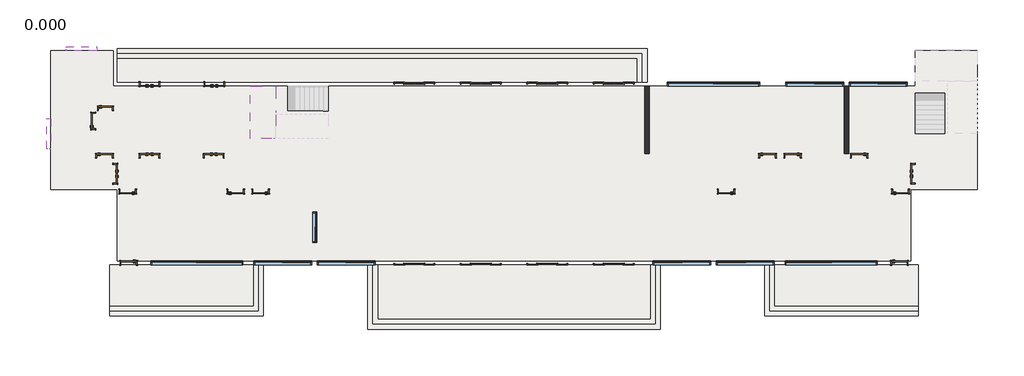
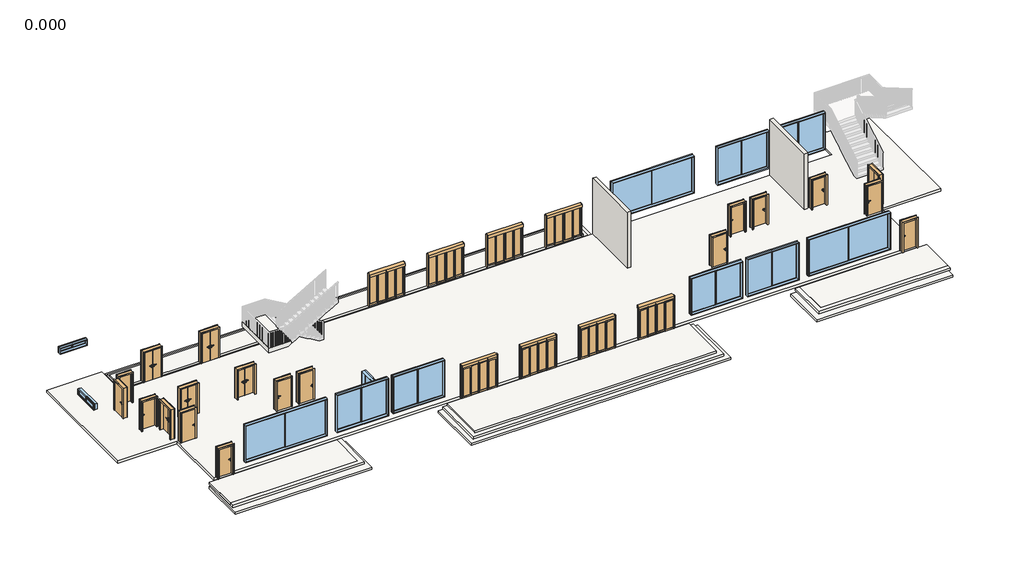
# One storey, part 1 of 4: 27 doors, 14 slabs, 12 windows, 2 walls.
"""IFC4 building model written with IfcOpenShell, lengths in millimetres."""

from ifc_helpers import new_model, si_unit, frame, origin, origin_with_axes, place, context, project, spatial, polyline, outline, extrude, faceted_brep, transform, mapped, element, save
from components import m0921_2716a3da, m1021_ed8d65da, m1021_7d4f1ed1, m1221_25037a99, m2421_7f85be3f, c1804_f212372e, c1812_6df05ca2, c3426_0dbdd1a9, c3426_fe1ed481, c5426_8dc2f223, c5426_d54fb578

model = new_model("IFC4")

# Units and contexts
model_context = context("Model", 3, world=origin())
ifc_project = project(units=[si_unit("LENGTHUNIT", "METRE", prefix="MILLI")], contexts=[model_context])

# Site, building, storey
site = spatial("IfcSite", under=ifc_project)
building = spatial("IfcBuilding", under=site)
storey = spatial("IfcBuildingStorey", under=building, Name="0.000", Elevation=0.0)

# Doors
placement = place(None, origin())
m0921_shape = m0921_2716a3da(model_context)
element("IfcDoor", 1, ObjectType="单嵌板木门 1 : M0921", at=placement, inside=storey, context=model_context, shape_type="MappedRepresentation", body=[
    mapped(m0921_shape, transform((-4237.0109656, 4101.6095817, 0.0), x_axis=(1.0, 0.0, 0.0), y_axis=(0.0, 1.0, 0.0), z_axis=(0.0, 0.0, 1.0))),
])
m1021_shape = m1021_ed8d65da(model_context)
element("IfcDoor", 2, ObjectType="单嵌板木门 1 : M1021", at=placement, inside=storey, context=model_context, shape_type="MappedRepresentation", body=[
    mapped(m1021_shape, transform((42332.9890344, -4983.3904183, 0.0), x_axis=(1.0, 0.0, 0.0), y_axis=(0.0, 1.0, 0.0), z_axis=(0.0, 0.0, 1.0))),
])
element("IfcDoor", 3, ObjectType="单嵌板木门 1 : M1021", at=placement, inside=storey, context=model_context, shape_type="MappedRepresentation", body=[
    mapped(m1021_shape, transform((-4937.0109656, 3366.6095817, 0.0), x_axis=(0.0, 1.0, 0.0), y_axis=(-1.0, 0.0, 0.0), z_axis=(0.0, 0.0, 1.0))),
])
element("IfcDoor", 4, ObjectType="单嵌板木门 1 : M1021", at=placement, inside=storey, context=model_context, shape_type="MappedRepresentation", body=[
    mapped(m1021_shape, transform((-4287.0109656, 1316.6095817, 0.0), x_axis=(1.0, 0.0, 0.0), y_axis=(0.0, 1.0, 0.0), z_axis=(0.0, 0.0, 1.0))),
])
element("IfcDoor", 5, ObjectType="单嵌板木门 1 : M1021", at=placement, inside=storey, context=model_context, shape_type="MappedRepresentation", body=[
    mapped(m1021_shape, transform((-2927.0109656, -783.3904183, 0.0), x_axis=(-1.0, 0.0, 0.0), y_axis=(0.0, -1.0, 0.0), z_axis=(0.0, 0.0, 1.0))),
])
element("IfcDoor", 6, ObjectType="单嵌板木门 1 : M1021", at=placement, inside=storey, context=model_context, shape_type="MappedRepresentation", body=[
    mapped(m1021_shape, transform((4867.9890344, -783.3904183, 0.0), x_axis=(-1.0, 0.0, 0.0), y_axis=(0.0, -1.0, 0.0), z_axis=(0.0, 0.0, 1.0))),
])
element("IfcDoor", 7, ObjectType="单嵌板木门 1 : M1021", at=placement, inside=storey, context=model_context, shape_type="MappedRepresentation", body=[
    mapped(m1021_shape, transform((32167.9890344, -783.3904183, 0.0), x_axis=(-1.0, 0.0, 0.0), y_axis=(0.0, -1.0, 0.0), z_axis=(0.0, 0.0, 1.0))),
])
element("IfcDoor", 8, ObjectType="单嵌板木门 1 : M1021", at=placement, inside=storey, context=model_context, shape_type="MappedRepresentation", body=[
    mapped(m1021_shape, transform((34597.9890344, 1316.6095817, 0.0), x_axis=(1.0, 0.0, 0.0), y_axis=(0.0, 1.0, 0.0), z_axis=(0.0, 0.0, 1.0))),
])
m1021_2_shape = m1021_7d4f1ed1(model_context)
element("IfcDoor", 9, ObjectType="单嵌板木门 1 : M1021", at=placement, inside=storey, context=model_context, shape_type="MappedRepresentation", body=[
    mapped(m1021_2_shape, transform((-2867.0109656, -4983.3904183, 0.0), x_axis=(-1.0, 0.0, 0.0), y_axis=(0.0, -1.0, 0.0), z_axis=(0.0, 0.0, 1.0))),
])
element("IfcDoor", 10, ObjectType="单嵌板木门 1 : M1021", at=placement, inside=storey, context=model_context, shape_type="MappedRepresentation", body=[
    mapped(m1021_2_shape, transform((3397.9890344, -783.3904183, 0.0), x_axis=(1.0, 0.0, 0.0), y_axis=(0.0, 1.0, 0.0), z_axis=(0.0, 0.0, 1.0))),
])
element("IfcDoor", 11, ObjectType="单嵌板木门 1 : M1021", at=placement, inside=storey, context=model_context, shape_type="MappedRepresentation", body=[
    mapped(m1021_2_shape, transform((42397.9890344, -783.3904183, 0.0), x_axis=(1.0, 0.0, 0.0), y_axis=(0.0, 1.0, 0.0), z_axis=(0.0, 0.0, 1.0))),
])
element("IfcDoor", 12, ObjectType="单嵌板木门 1 : M1021", at=placement, inside=storey, context=model_context, shape_type="MappedRepresentation", body=[
    mapped(m1021_2_shape, transform((36067.9890344, 1316.6095817, 0.0), x_axis=(-1.0, 0.0, 0.0), y_axis=(0.0, -1.0, 0.0), z_axis=(0.0, 0.0, 1.0))),
])
element("IfcDoor", 13, ObjectType="单嵌板木门 1 : M1021", at=placement, inside=storey, context=model_context, shape_type="MappedRepresentation", body=[
    mapped(m1021_2_shape, transform((39967.9890344, 1316.6095817, 0.0), x_axis=(-1.0, 0.0, 0.0), y_axis=(0.0, -1.0, 0.0), z_axis=(0.0, 0.0, 1.0))),
])
m1221_shape = m1221_25037a99(model_context)
element("IfcDoor", 14, ObjectType="双面嵌板木门 1 : M1221", at=placement, inside=storey, context=model_context, shape_type="MappedRepresentation", body=[
    mapped(m1221_shape, transform((-1647.0109656, 5516.6095817, 0.0), x_axis=(-1.0, 0.0, 0.0), y_axis=(0.0, -1.0, 0.0), z_axis=(0.0, 0.0, 1.0))),
])
element("IfcDoor", 15, ObjectType="双面嵌板木门 1 : M1221", at=placement, inside=storey, context=model_context, shape_type="MappedRepresentation", body=[
    mapped(m1221_shape, transform((2152.9890344, 5516.6095817, 0.0), x_axis=(-1.0, 0.0, 0.0), y_axis=(0.0, -1.0, 0.0), z_axis=(0.0, 0.0, 1.0))),
])
element("IfcDoor", 16, ObjectType="双面嵌板木门 1 : M1221", at=placement, inside=storey, context=model_context, shape_type="MappedRepresentation", body=[
    mapped(m1221_shape, transform((-3667.0109656, 264.1095817, 0.0), x_axis=(0.0, -1.0, 0.0), y_axis=(1.0, 0.0, 0.0), z_axis=(0.0, 0.0, 1.0))),
])
element("IfcDoor", 17, ObjectType="双面嵌板木门 1 : M1221", at=placement, inside=storey, context=model_context, shape_type="MappedRepresentation", body=[
    mapped(m1221_shape, transform((-1647.0109656, 1316.6095817, 0.0), x_axis=(1.0, 0.0, 0.0), y_axis=(0.0, 1.0, 0.0), z_axis=(0.0, 0.0, 1.0))),
])
element("IfcDoor", 18, ObjectType="双面嵌板木门 1 : M1221", at=placement, inside=storey, context=model_context, shape_type="MappedRepresentation", body=[
    mapped(m1221_shape, transform((2117.9890344, 1316.6095817, 0.0), x_axis=(1.0, 0.0, 0.0), y_axis=(0.0, 1.0, 0.0), z_axis=(0.0, 0.0, 1.0))),
])
element("IfcDoor", 19, ObjectType="双面嵌板木门 1 : M1221", at=placement, inside=storey, context=model_context, shape_type="MappedRepresentation", body=[
    mapped(m1221_shape, transform((43132.9890344, 266.6095817, 0.0), x_axis=(0.0, 1.0, 0.0), y_axis=(-1.0, 0.0, 0.0), z_axis=(0.0, 0.0, 1.0))),
])
m2421_shape = m2421_7f85be3f(model_context)
element("IfcDoor", 20, ObjectType="四扇推拉门 2 : M2421", at=placement, inside=storey, context=model_context, shape_type="MappedRepresentation", body=[
    mapped(m2421_shape, transform((13882.9890344, 5516.6095817, 0.0), x_axis=(1.0, 0.0, 0.0), y_axis=(0.0, 1.0, 0.0), z_axis=(0.0, 0.0, 1.0))),
])
element("IfcDoor", 21, ObjectType="四扇推拉门 2 : M2421", at=placement, inside=storey, context=model_context, shape_type="MappedRepresentation", body=[
    mapped(m2421_shape, transform((17782.9890344, 5516.6095817, 0.0), x_axis=(1.0, 0.0, 0.0), y_axis=(0.0, 1.0, 0.0), z_axis=(0.0, 0.0, 1.0))),
])
element("IfcDoor", 22, ObjectType="四扇推拉门 2 : M2421", at=placement, inside=storey, context=model_context, shape_type="MappedRepresentation", body=[
    mapped(m2421_shape, transform((21682.9890344, 5516.6095817, 0.0), x_axis=(1.0, 0.0, 0.0), y_axis=(0.0, 1.0, 0.0), z_axis=(0.0, 0.0, 1.0))),
])
element("IfcDoor", 23, ObjectType="四扇推拉门 2 : M2421", at=placement, inside=storey, context=model_context, shape_type="MappedRepresentation", body=[
    mapped(m2421_shape, transform((25582.9890344, 5516.6095817, 0.0), x_axis=(1.0, 0.0, 0.0), y_axis=(0.0, 1.0, 0.0), z_axis=(0.0, 0.0, 1.0))),
])
element("IfcDoor", 24, ObjectType="四扇推拉门 2 : M2421", at=placement, inside=storey, context=model_context, shape_type="MappedRepresentation", body=[
    mapped(m2421_shape, transform((25582.9890344, -4983.3904183, 0.0), x_axis=(-1.0, 0.0, 0.0), y_axis=(0.0, -1.0, 0.0), z_axis=(0.0, 0.0, 1.0))),
])
element("IfcDoor", 25, ObjectType="四扇推拉门 2 : M2421", at=placement, inside=storey, context=model_context, shape_type="MappedRepresentation", body=[
    mapped(m2421_shape, transform((21682.9890344, -4983.3904183, 0.0), x_axis=(-1.0, 0.0, 0.0), y_axis=(0.0, -1.0, 0.0), z_axis=(0.0, 0.0, 1.0))),
])
element("IfcDoor", 26, ObjectType="四扇推拉门 2 : M2421", at=placement, inside=storey, context=model_context, shape_type="MappedRepresentation", body=[
    mapped(m2421_shape, transform((17782.9890344, -4983.3904183, 0.0), x_axis=(-1.0, 0.0, 0.0), y_axis=(0.0, -1.0, 0.0), z_axis=(0.0, 0.0, 1.0))),
])
element("IfcDoor", 27, ObjectType="四扇推拉门 2 : M2421", at=placement, inside=storey, context=model_context, shape_type="MappedRepresentation", body=[
    mapped(m2421_shape, transform((13882.9890344, -4983.3904183, 0.0), x_axis=(-1.0, 0.0, 0.0), y_axis=(0.0, -1.0, 0.0), z_axis=(0.0, 0.0, 1.0))),
])

# Slabs
element("IfcSlab", 28, ObjectType="150mm厚钢筋混凝土", at=placement, inside=storey, context=model_context, shape_type="SweptSolid", body=[
    extrude(outline(polyline([(-3787.0109656, 7496.6095817), (-3787.0109656, 5396.6095817), (43252.9890344, 5396.6095817), (43252.9890344, 7496.6095817), (46912.9890344, 7496.6095817), (46912.9890344, -663.3904183), (43012.9890344, -663.3904183), (43012.9890344, -4863.3904183), (-3547.0109656, -4863.3904183), (-3547.0109656, -663.3904183), (-7447.0109656, -663.3904183), (-7447.0109656, 7496.6095817), (-3787.0109656, 7496.6095817)])), frame((0.0, 0.0, -150.0), z_axis=(0.0, 0.0, 1.0), x_axis=(1.0, 0.0, 0.0)), (0.0, 0.0, 1.0), 150.0),
])
element("IfcSlab", 29, ObjectType="150mm厚钢筋混凝土", at=placement, inside=storey, context=model_context, shape_type="SweptSolid", body=[
    extrude(outline(polyline([(-3547.0109656, 7616.6095817), (27532.9890344, 7616.6095817), (27532.9890344, 5636.6095817), (-3547.0109656, 5636.6095817), (-3547.0109656, 7616.6095817)])), frame((0.0, 0.0, -450.0), z_axis=(0.0, 0.0, 1.0), x_axis=(1.0, 0.0, 0.0)), (0.0, 0.0, 1.0), 150.0),
])
element("IfcSlab", 30, ObjectType="150mm厚钢筋混凝土", at=placement, inside=storey, context=model_context, shape_type="SweptSolid", body=[
    extrude(outline(polyline([(-3547.0109656, 7316.6095817), (27232.9890344, 7316.6095817), (27232.9890344, 5636.6095817), (-3547.0109656, 5636.6095817), (-3547.0109656, 7316.6095817)])), frame((0.0, 0.0, -300.0), z_axis=(0.0, 0.0, 1.0), x_axis=(1.0, 0.0, 0.0)), (0.0, 0.0, 1.0), 150.0),
])
element("IfcSlab", 31, ObjectType="150mm厚钢筋混凝土", at=placement, inside=storey, context=model_context, shape_type="SweptSolid", body=[
    extrude(outline(polyline([(26932.9890344, 7016.6095817), (26932.9890344, 5636.6095817), (-3547.0109656, 5636.6095817), (-3547.0109656, 7016.6095817), (26932.9890344, 7016.6095817)])), frame((0.0, 0.0, -150.0), z_axis=(0.0, 0.0, 1.0), x_axis=(1.0, 0.0, 0.0)), (0.0, 0.0, 1.0), 150.0),
])
element("IfcSlab", 32, ObjectType="150mm厚钢筋混凝土", at=placement, inside=storey, context=model_context, shape_type="SweptSolid", body=[
    extrude(outline(polyline([(-3967.0109656, -7483.3904183), (-3967.0109656, -5103.3904183), (4432.9890344, -5103.3904183), (4432.9890344, -7483.3904183), (-3967.0109656, -7483.3904183)])), frame((0.0, 0.0, -150.0), z_axis=(0.0, 0.0, 1.0), x_axis=(1.0, 0.0, 0.0)), (0.0, 0.0, 1.0), 150.0),
])
element("IfcSlab", 33, ObjectType="150mm厚钢筋混凝土", at=placement, inside=storey, context=model_context, shape_type="SweptSolid", body=[
    extrude(outline(polyline([(-3967.0109656, -7783.3904183), (-3967.0109656, -5103.3904183), (4732.9890344, -5103.3904183), (4732.9890344, -7783.3904183), (-3967.0109656, -7783.3904183)])), frame((0.0, 0.0, -150.0), z_axis=(0.0, 0.0, 1.0), x_axis=(1.0, 0.0, 0.0)), (0.0, 0.0, 1.0), 150.0),
])
element("IfcSlab", 34, ObjectType="150mm厚钢筋混凝土", at=placement, inside=storey, context=model_context, shape_type="SweptSolid", body=[
    extrude(outline(polyline([(5032.9890344, -8083.3904183), (-3967.0109656, -8083.3904183), (-3967.0109656, -5103.3904183), (5032.9890344, -5103.3904183), (5032.9890344, -8083.3904183)])), frame((0.0, 0.0, -450.0), z_axis=(0.0, 0.0, 1.0), x_axis=(1.0, 0.0, 0.0)), (0.0, 0.0, 1.0), 150.0),
])
element("IfcSlab", 35, ObjectType="150mm厚钢筋混凝土", at=placement, inside=storey, context=model_context, shape_type="SweptSolid", body=[
    extrude(outline(polyline([(35032.9890344, -7483.3904183), (35032.9890344, -5103.3904183), (43432.9890344, -5103.3904183), (43432.9890344, -7483.3904183), (35032.9890344, -7483.3904183)])), frame((0.0, 0.0, -150.0), z_axis=(0.0, 0.0, 1.0), x_axis=(1.0, 0.0, 0.0)), (0.0, 0.0, 1.0), 150.0),
])
element("IfcSlab", 36, ObjectType="150mm厚钢筋混凝土", at=placement, inside=storey, context=model_context, shape_type="SweptSolid", body=[
    extrude(outline(polyline([(34732.9890344, -7783.3904183), (34732.9890344, -5103.3904183), (43432.9890344, -5103.3904183), (43432.9890344, -7783.3904183), (34732.9890344, -7783.3904183)])), frame((0.0, 0.0, -150.0), z_axis=(0.0, 0.0, 1.0), x_axis=(1.0, 0.0, 0.0)), (0.0, 0.0, 1.0), 150.0),
])
element("IfcSlab", 37, ObjectType="150mm厚钢筋混凝土", at=placement, inside=storey, context=model_context, shape_type="SweptSolid", body=[
    extrude(outline(polyline([(43432.9890344, -8083.3904183), (34432.9890344, -8083.3904183), (34432.9890344, -5103.3904183), (43432.9890344, -5103.3904183), (43432.9890344, -8083.3904183)])), frame((0.0, 0.0, -450.0), z_axis=(0.0, 0.0, 1.0), x_axis=(1.0, 0.0, 0.0)), (0.0, 0.0, 1.0), 150.0),
])
element("IfcSlab", 38, ObjectType="150mm厚钢筋混凝土", at=placement, inside=storey, context=model_context, shape_type="SweptSolid", body=[
    extrude(outline(polyline([(11757.9890344, -8260.3904183), (11757.9890344, -5103.3904183), (27707.9890344, -5103.3904183), (27707.9890344, -8260.3904183), (11757.9890344, -8260.3904183)])), frame((0.0, 0.0, -150.0), z_axis=(0.0, 0.0, 1.0), x_axis=(1.0, 0.0, 0.0)), (0.0, 0.0, 1.0), 150.0),
])
element("IfcSlab", 39, ObjectType="150mm厚钢筋混凝土", at=placement, inside=storey, context=model_context, shape_type="SweptSolid", body=[
    extrude(outline(polyline([(11457.9890344, -5103.3904183), (28007.9890344, -5103.3904183), (28007.9890344, -8560.3904183), (11457.9890344, -8560.3904183), (11457.9890344, -5103.3904183)])), frame((0.0, 0.0, -300.0), z_axis=(0.0, 0.0, 1.0), x_axis=(1.0, 0.0, 0.0)), (0.0, 0.0, 1.0), 150.0),
])
element("IfcSlab", 40, ObjectType="150mm厚钢筋混凝土", at=placement, inside=storey, context=model_context, shape_type="SweptSolid", body=[
    extrude(outline(polyline([(28307.9890344, -5103.3904183), (28307.9890344, -8860.3904183), (11157.9890344, -8860.3904183), (11157.9890344, -5103.3904183), (28307.9890344, -5103.3904183)])), frame((0.0, 0.0, -450.0), z_axis=(0.0, 0.0, 1.0), x_axis=(1.0, 0.0, 0.0)), (0.0, 0.0, 1.0), 150.0),
])
element("IfcSlab", 41, ObjectType="300mm 厚度", at=placement, inside=storey, context=model_context, shape_type="Brep", body=[
    faceted_brep([(5752.9890344, 3956.6095817, 1950.0), (5752.9890344, 5396.6095817, 1950.0), (5691.0770952, 5396.6095817, 1950.0), (4252.9890344, 5396.6095817, 1950.0), (4252.9890344, 2336.6095817, 1950.0), (5534.9009736, 2336.6095817, 1950.0), (5752.9890344, 2336.6095817, 1950.0), (5752.9890344, 3776.6095817, 1950.0), (5752.9890344, 3956.6095817, 1650.0), (5752.9890344, 3956.6095817, 1614.0689639), (5752.9890344, 5396.6095817, 1614.0689639), (5752.9890344, 5396.6095817, 1787.5), (5691.0770952, 5396.6095817, 1650.0), (4252.9890344, 5396.6095817, 1650.0), (4252.9890344, 2336.6095817, 1650.0), (5534.9009736, 2336.6095817, 1650.0), (5752.9890344, 2336.6095817, 1776.5689639), (5752.9890344, 3776.6095817, 1776.5689639), (5752.9890344, 3776.6095817, 1650.0), (5534.9009736, 3776.6095817, 1650.0), (5691.0770952, 3956.6095817, 1650.0)], [[[0, 1, 2, 3, 4, 5, 6, 7]], [[1, 0, 8, 9, 10, 11]], [[1, 11, 10, 12, 13, 3, 2]], [[4, 3, 13, 14]], [[4, 14, 15, 16, 6, 5]], [[7, 6, 16, 17]], [[0, 7, 17, 18, 8]], [[18, 19, 15, 14, 13, 12, 20, 8]], [[19, 18, 17]], [[20, 12, 10, 9]], [[8, 20, 9]], [[15, 19, 17, 16]]]),
])

# Walls
element("IfcWall", 42, ObjectType="240mm厚墙", at=placement, inside=storey, context=model_context, shape_type="SweptSolid", body=[
    extrude(outline(polyline([(39352.9890344, 5396.6095817), (39352.9890344, 1436.6095817), (39112.9890344, 1436.6095817), (39112.9890344, 5396.6095817), (39352.9890344, 5396.6095817)])), origin_with_axes(), (0.0, 0.0, 1.0), 3900.0),
])
element("IfcWall", 43, ObjectType="240mm厚墙", at=placement, inside=storey, context=model_context, shape_type="SweptSolid", body=[
    extrude(outline(polyline([(27652.9890344, 5396.6095817), (27652.9890344, 1436.6095817), (27412.9890344, 1436.6095817), (27412.9890344, 5396.6095817), (27652.9890344, 5396.6095817)])), origin_with_axes(), (0.0, 0.0, 1.0), 3900.0),
])

# Windows
c1804_shape = c1804_f212372e(model_context)
element("IfcWindow", 44, ObjectType="推拉窗6 : C1804", at=placement, inside=storey, context=model_context, shape_type="MappedRepresentation", body=[
    mapped(c1804_shape, transform((-5654.0359656, 7683.4830192, 1600.0), x_axis=(1.0, 0.0, 0.0), y_axis=(0.0, 1.0, 0.0), z_axis=(0.0, 0.0, 1.0))),
])
element("IfcWindow", 45, ObjectType="推拉窗6 : C1804", at=placement, inside=storey, context=model_context, shape_type="MappedRepresentation", body=[
    mapped(c1804_shape, transform((-7633.8844031, 2597.0845817, 1600.0), x_axis=(0.0, 1.0, 0.0), y_axis=(-1.0, 0.0, 0.0), z_axis=(0.0, 0.0, 1.0))),
])
c1812_shape = c1812_6df05ca2(model_context)
element("IfcWindow", 46, ObjectType="推拉窗6 : C1812", at=placement, inside=storey, context=model_context, shape_type="MappedRepresentation", body=[
    mapped(c1812_shape, transform((8099.8624719, -2873.8654183, -100.0), x_axis=(0.0, -1.0, 0.0), y_axis=(1.0, 0.0, 0.0), z_axis=(0.0, 0.0, 1.0))),
])
c3426_shape = c3426_0dbdd1a9(model_context)
element("IfcWindow", 47, ObjectType="推拉窗6 : C3426", at=placement, inside=storey, context=model_context, shape_type="MappedRepresentation", body=[
    mapped(c3426_shape, transform((6163.4640344, -4916.5169808, -100.0), x_axis=(1.0, 0.0, 0.0), y_axis=(0.0, 1.0, 0.0), z_axis=(0.0, 0.0, 1.0))),
])
element("IfcWindow", 48, ObjectType="推拉窗6 : C3426", at=placement, inside=storey, context=model_context, shape_type="MappedRepresentation", body=[
    mapped(c3426_shape, transform((9883.4640344, -4916.5169808, -100.0), x_axis=(1.0, 0.0, 0.0), y_axis=(0.0, 1.0, 0.0), z_axis=(0.0, 0.0, 1.0))),
])
element("IfcWindow", 49, ObjectType="推拉窗6 : C3426", at=placement, inside=storey, context=model_context, shape_type="MappedRepresentation", body=[
    mapped(c3426_shape, transform((41083.4640344, 5583.4830192, -100.0), x_axis=(1.0, 0.0, 0.0), y_axis=(0.0, 1.0, 0.0), z_axis=(0.0, 0.0, 1.0))),
])
element("IfcWindow", 50, ObjectType="推拉窗6 : C3426", at=placement, inside=storey, context=model_context, shape_type="MappedRepresentation", body=[
    mapped(c3426_shape, transform((37363.4640344, 5583.4830192, -100.0), x_axis=(1.0, 0.0, 0.0), y_axis=(0.0, 1.0, 0.0), z_axis=(0.0, 0.0, 1.0))),
])
c3426_2_shape = c3426_fe1ed481(model_context)
element("IfcWindow", 51, ObjectType="推拉窗6 : C3426", at=placement, inside=storey, context=model_context, shape_type="MappedRepresentation", body=[
    mapped(c3426_2_shape, transform((33302.5140344, -4916.5169808, -100.0), x_axis=(-1.0, 0.0, 0.0), y_axis=(0.0, -1.0, 0.0), z_axis=(0.0, 0.0, 1.0))),
])
element("IfcWindow", 52, ObjectType="推拉窗6 : C3426", at=placement, inside=storey, context=model_context, shape_type="MappedRepresentation", body=[
    mapped(c3426_2_shape, transform((29582.5140344, -4916.5169808, -100.0), x_axis=(-1.0, 0.0, 0.0), y_axis=(0.0, -1.0, 0.0), z_axis=(0.0, 0.0, 1.0))),
])
c5426_shape = c5426_8dc2f223(model_context)
element("IfcWindow", 53, ObjectType="推拉窗6 : C5426", at=placement, inside=storey, context=model_context, shape_type="MappedRepresentation", body=[
    mapped(c5426_shape, transform((1123.4640344, -4916.5169808, -100.0), x_axis=(1.0, 0.0, 0.0), y_axis=(0.0, 1.0, 0.0), z_axis=(0.0, 0.0, 1.0))),
])
element("IfcWindow", 54, ObjectType="推拉窗6 : C5426", at=placement, inside=storey, context=model_context, shape_type="MappedRepresentation", body=[
    mapped(c5426_shape, transform((31423.4640344, 5583.4830192, -100.0), x_axis=(1.0, 0.0, 0.0), y_axis=(0.0, 1.0, 0.0), z_axis=(0.0, 0.0, 1.0))),
])
c5426_2_shape = c5426_d54fb578(model_context)
element("IfcWindow", 55, ObjectType="推拉窗6 : C5426", at=placement, inside=storey, context=model_context, shape_type="MappedRepresentation", body=[
    mapped(c5426_2_shape, transform((38342.5140344, -4916.5169808, -100.0), x_axis=(-1.0, 0.0, 0.0), y_axis=(0.0, -1.0, 0.0), z_axis=(0.0, 0.0, 1.0))),
])

save(model, "model.ifc")
